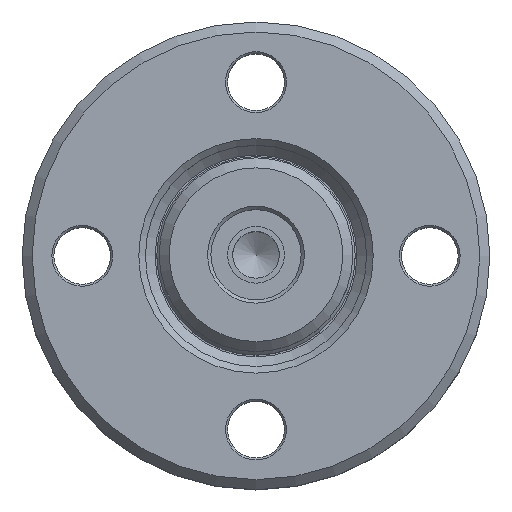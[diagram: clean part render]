
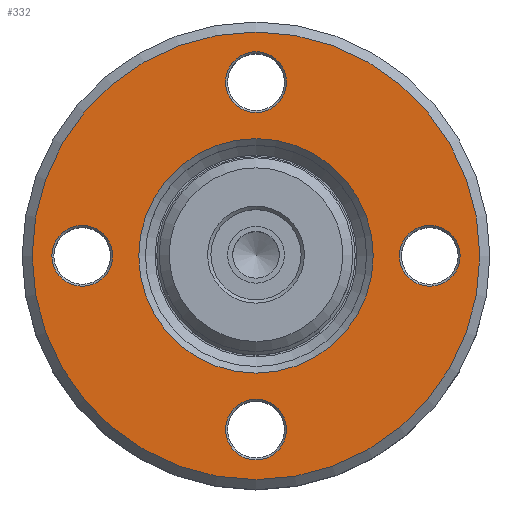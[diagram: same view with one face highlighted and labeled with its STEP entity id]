
A CAD part, top view. The second image highlights one B-rep face of the part: STEP entity #332.
In plain terms, the highlighted planar face has unit normal (0, 0, 1).
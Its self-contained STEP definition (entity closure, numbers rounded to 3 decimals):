
#234=FACE_BOUND('',#533,.T.);
#235=FACE_BOUND('',#534,.T.);
#236=FACE_BOUND('',#535,.T.);
#237=FACE_BOUND('',#536,.T.);
#238=FACE_BOUND('',#537,.T.);
#332=ADVANCED_FACE('',(#234,#235,#236,#237,#238,#412),#378,.T.);
#378=PLANE('',#1141);
#412=FACE_OUTER_BOUND('',#538,.T.);
#533=EDGE_LOOP('',(#705));
#534=EDGE_LOOP('',(#706));
#535=EDGE_LOOP('',(#707));
#536=EDGE_LOOP('',(#708));
#537=EDGE_LOOP('',(#709));
#538=EDGE_LOOP('',(#710));
#705=ORIENTED_EDGE('',*,*,#915,.T.);
#706=ORIENTED_EDGE('',*,*,#916,.T.);
#707=ORIENTED_EDGE('',*,*,#917,.T.);
#708=ORIENTED_EDGE('',*,*,#918,.T.);
#709=ORIENTED_EDGE('',*,*,#919,.T.);
#710=ORIENTED_EDGE('',*,*,#920,.T.);
#829=VERTEX_POINT('',#1686);
#830=VERTEX_POINT('',#1688);
#831=VERTEX_POINT('',#1690);
#832=VERTEX_POINT('',#1692);
#833=VERTEX_POINT('',#1694);
#834=VERTEX_POINT('',#1696);
#915=EDGE_CURVE('',#829,#829,#1001,.T.);
#916=EDGE_CURVE('',#830,#830,#1002,.T.);
#917=EDGE_CURVE('',#831,#831,#1003,.T.);
#918=EDGE_CURVE('',#832,#832,#1004,.T.);
#919=EDGE_CURVE('',#833,#833,#1005,.T.);
#920=EDGE_CURVE('',#834,#834,#1006,.T.);
#1001=CIRCLE('',#1135,17.55);
#1002=CIRCLE('',#1136,4.55);
#1003=CIRCLE('',#1137,4.55);
#1004=CIRCLE('',#1138,4.55);
#1005=CIRCLE('',#1139,4.55);
#1006=CIRCLE('',#1140,33.5);
#1135=AXIS2_PLACEMENT_3D('',#1685,#1400,#1401);
#1136=AXIS2_PLACEMENT_3D('',#1687,#1402,#1403);
#1137=AXIS2_PLACEMENT_3D('',#1689,#1404,#1405);
#1138=AXIS2_PLACEMENT_3D('',#1691,#1406,#1407);
#1139=AXIS2_PLACEMENT_3D('',#1693,#1408,#1409);
#1140=AXIS2_PLACEMENT_3D('',#1695,#1410,#1411);
#1141=AXIS2_PLACEMENT_3D('',#1697,#1412,#1413);
#1400=DIRECTION('',(0.,0.,-1.));
#1401=DIRECTION('',(1.,0.,0.));
#1402=DIRECTION('',(0.,0.,-1.));
#1403=DIRECTION('',(1.,0.,0.));
#1404=DIRECTION('',(0.,0.,-1.));
#1405=DIRECTION('',(1.,0.,0.));
#1406=DIRECTION('',(0.,0.,-1.));
#1407=DIRECTION('',(1.,0.,0.));
#1408=DIRECTION('',(0.,0.,-1.));
#1409=DIRECTION('',(1.,0.,0.));
#1410=DIRECTION('',(0.,0.,1.));
#1411=DIRECTION('',(1.,0.,0.));
#1412=DIRECTION('',(0.,0.,1.));
#1413=DIRECTION('',(1.,0.,0.));
#1685=CARTESIAN_POINT('',(0.,0.,13.));
#1686=CARTESIAN_POINT('',(17.55,0.,13.));
#1687=CARTESIAN_POINT('',(0.,26.,13.));
#1688=CARTESIAN_POINT('',(4.55,26.,13.));
#1689=CARTESIAN_POINT('',(26.,0.,13.));
#1690=CARTESIAN_POINT('',(30.55,0.,13.));
#1691=CARTESIAN_POINT('',(0.,-26.,13.));
#1692=CARTESIAN_POINT('',(4.55,-26.,13.));
#1693=CARTESIAN_POINT('',(-26.,0.,13.));
#1694=CARTESIAN_POINT('',(-21.45,0.,13.));
#1695=CARTESIAN_POINT('',(0.,0.,13.));
#1696=CARTESIAN_POINT('',(33.5,0.,13.));
#1697=CARTESIAN_POINT('',(0.,0.,13.));
